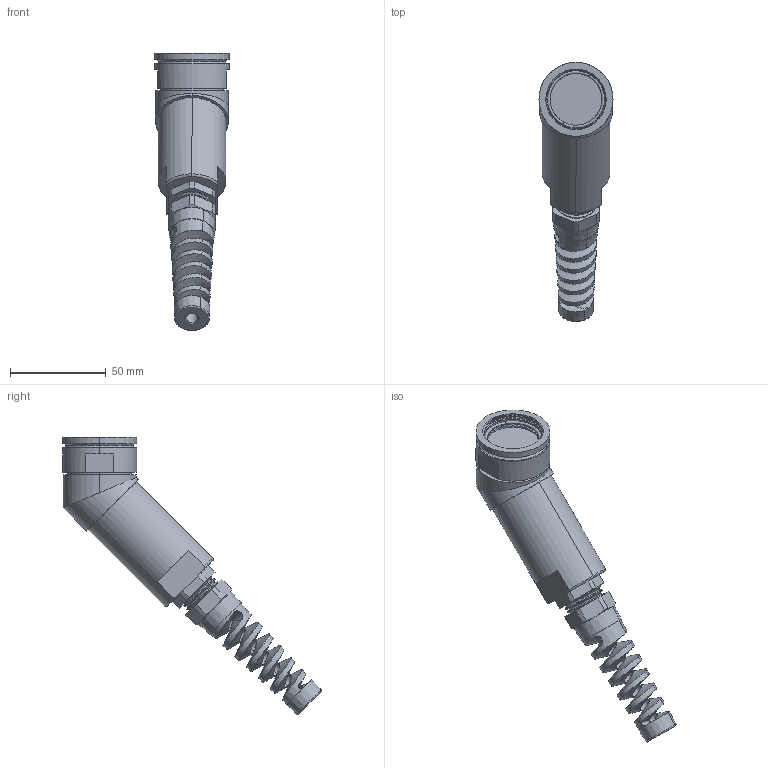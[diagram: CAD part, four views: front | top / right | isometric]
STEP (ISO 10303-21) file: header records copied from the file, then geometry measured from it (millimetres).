
FILE_DESCRIPTION (( 'STEP AP214' ), '1' );
FILE_NAME ('Q38SHELL-45X-21-XXXX-GB.STEP', '2025-09-25T21:00:36', ( '' ), ( '' ), 'SwSTEP 2.0', 'SolidWorks 2024', '' );
FILE_SCHEMA (( 'AUTOMOTIVE_DESIGN' ));
Length unit declared in the file: millimetre
Products named in the file (1): Q38SHELL-45X-21-XXXX-GB
Bounding box: 38.58 x 134.94 x 144.43 mm (x, y, z)
Volume: 113769.4 mm3; surface area: 26060 mm2
Topology: 2 solids, 2 shells, 314 faces, 990 edges, 692 vertices
Faces by surface type: plane 183, cylinder 71, cone 40, torus 13, bspline 7
Entity records: 16134 total; most frequent: CARTESIAN_POINT 7949, ORIENTED_EDGE 1976, DIRECTION 1489, EDGE_CURVE 988, VERTEX_POINT 692, AXIS2_PLACEMENT_3D 605, EDGE_LOOP 332, ADVANCED_FACE 314
